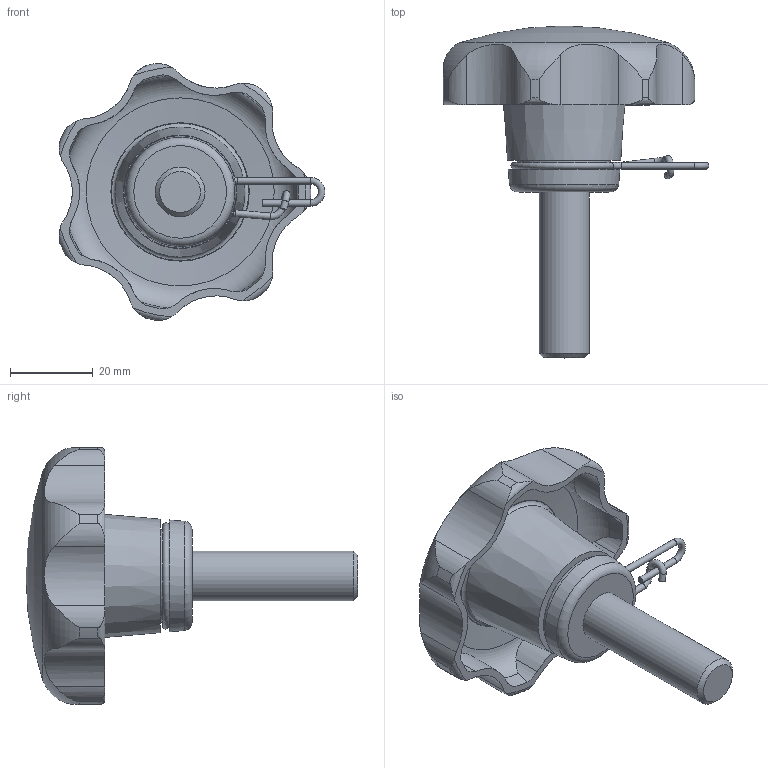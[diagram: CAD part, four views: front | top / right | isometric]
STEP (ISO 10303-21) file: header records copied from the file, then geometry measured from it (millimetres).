
FILE_DESCRIPTION( ( 'STEP AP203' ), '1' );
FILE_NAME( 'C:/Temp/Ganter_Step_05_03_2020/data/2_2/gn_6336_13/gn_6336_13_2/Star knob GN 6336.13-63-M12-40-A.stp', '2020-03-05T12:11:19', ( 'License CC BY-ND 4.0' ), ( 'CADENAS' ), ' ', 'PARTsolutions', ' ' );
FILE_SCHEMA( ( 'CONFIG_CONTROL_DESIGN' ) );
Length unit declared in the file: millimetre
Products named in the file (1): _Star knob GN 6336.13-63-M12-40-A
Bounding box: 64.06 x 80 x 61.94 mm (x, y, z)
Volume: 45484.5 mm3; surface area: 14170.7 mm2
Topology: 1 solids, 1 shells, 100 faces, 268 edges, 174 vertices
Faces by surface type: cylinder 59, torus 18, plane 11, cone 11, sphere 1
Full cylindrical faces by diameter (mm): 1.6 x6, 12 x1, 22.3 x1
Entity records: 3980 total; most frequent: CARTESIAN_POINT 1605, DIRECTION 480, ORIENTED_EDGE 476, EDGE_CURVE 238, AXIS2_PLACEMENT_3D 215, VERTEX_POINT 170, EDGE_LOOP 127, FACE_OUTER_BOUND 118
